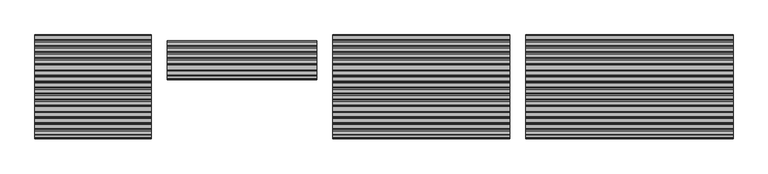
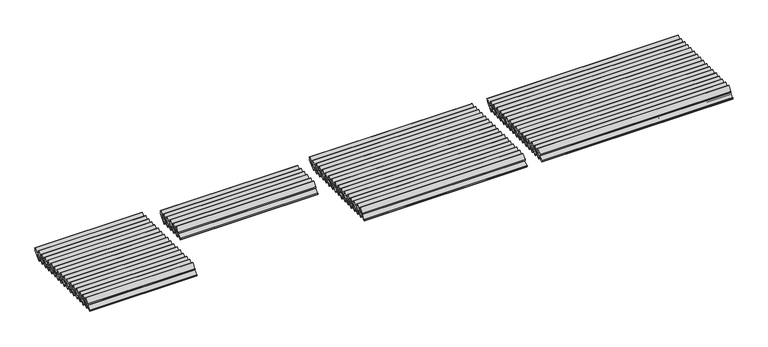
"""IFC4 building model written with IfcOpenShell, lengths in millimetres: proxy geometry, Renson_Camargue_Skye_Facade-Mounted_Patio covers : Renson_Camargue_Skye_Facade-Mounted_Patio covers."""

from ifc_helpers import new_model, si_unit, point, frame, frame_2d, origin, place, context, project, spatial, polyline, circle_curve, trimmed, segment, composite_curve, outline, extrude, source, transform, mapped, element, save


def generic_models_adc54a13(model_context):
    return source(origin(), model_context, "Body", "SweptSolid", [
        extrude(outline(composite_curve([segment(polyline([(-59.6564097, 2532.0835122), (-206.8022706, 2384.9376513), (-224.8658588, 2406.4649975), (-214.5822882, 2417.7863257), (-200.3763142, 2407.8391957), (-138.3377521, 2469.8777579), (-149.5375278, 2485.8726953)]), True, "CONTINUOUS"), segment(trimmed(circle_curve(frame_2d((-137.2502472, 2494.4763419)), 15.0), [point((-149.5375278, 2485.8726953))], [point((-148.3535191, 2504.561844))], False, "CARTESIAN"), True, "CONTINUOUS"), segment(polyline([(-148.3535191, 2504.561844), (-74.3098405, 2586.077577), (-58.094889, 2574.7237457), (-77.5051073, 2553.3547618), (-59.6564097, 2532.0835122)]), True, "CONTINUOUS")], self_intersect=False)), frame((-1079.7970473, 0.0, 0.0), z_axis=(1.0, 0.0, 0.0), x_axis=(0.0, 1.0, 0.0)), (0.0, 0.0, 1.0), 2107.0),
        extrude(outline(composite_curve([segment(polyline([(-167.1672144, 2532.0835122), (-314.3130754, 2384.9376513), (-332.3766636, 2406.4649975), (-322.093093, 2417.7863257), (-307.887119, 2407.8391957), (-245.8485568, 2469.8777579), (-257.0483326, 2485.8726953)]), True, "CONTINUOUS"), segment(trimmed(circle_curve(frame_2d((-244.761052, 2494.4763419)), 15.0), [point((-257.0483326, 2485.8726953))], [point((-255.8643239, 2504.561844))], False, "CARTESIAN"), True, "CONTINUOUS"), segment(polyline([(-255.8643239, 2504.561844), (-181.8206452, 2586.077577), (-165.6056937, 2574.7237457), (-185.0159121, 2553.3547618), (-167.1672144, 2532.0835122)]), True, "CONTINUOUS")], self_intersect=False)), frame((-1079.7970473, 0.0, 0.0), z_axis=(1.0, 0.0, 0.0), x_axis=(0.0, 1.0, 0.0)), (0.0, 0.0, 1.0), 2107.0),
        extrude(outline(composite_curve([segment(polyline([(-274.6780192, 2532.0835122), (-421.8238801, 2384.9376513), (-439.8874684, 2406.4649975), (-429.6038978, 2417.7863257), (-415.3979238, 2407.8391957), (-353.3593616, 2469.8777579), (-364.5591374, 2485.8726953)]), True, "CONTINUOUS"), segment(trimmed(circle_curve(frame_2d((-352.2718567, 2494.4763419)), 15.0), [point((-364.5591374, 2485.8726953))], [point((-363.3751287, 2504.561844))], False, "CARTESIAN"), True, "CONTINUOUS"), segment(polyline([(-363.3751287, 2504.561844), (-289.33145, 2586.077577), (-273.1164985, 2574.7237457), (-292.5267169, 2553.3547618), (-274.6780192, 2532.0835122)]), True, "CONTINUOUS")], self_intersect=False)), frame((-1079.7970473, 0.0, 0.0), z_axis=(1.0, 0.0, 0.0), x_axis=(0.0, 1.0, 0.0)), (0.0, 0.0, 1.0), 2107.0),
        extrude(outline(composite_curve([segment(polyline([(-382.188824, 2532.0835122), (-529.3346849, 2384.9376513), (-547.3982731, 2406.4649975), (-537.1147026, 2417.7863257), (-522.9087286, 2407.8391957), (-460.8701664, 2469.8777579), (-472.0699422, 2485.8726953)]), True, "CONTINUOUS"), segment(trimmed(circle_curve(frame_2d((-459.7826615, 2494.4763419)), 15.0), [point((-472.0699422, 2485.8726953))], [point((-470.8859334, 2504.561844))], False, "CARTESIAN"), True, "CONTINUOUS"), segment(polyline([(-470.8859334, 2504.561844), (-396.8422548, 2586.077577), (-380.6273033, 2574.7237457), (-400.0375217, 2553.3547618), (-382.188824, 2532.0835122)]), True, "CONTINUOUS")], self_intersect=False)), frame((-1079.7970473, 0.0, 0.0), z_axis=(1.0, 0.0, 0.0), x_axis=(0.0, 1.0, 0.0)), (0.0, 0.0, 1.0), 2107.0),
        extrude(outline(composite_curve([segment(polyline([(-489.6996288, 2532.0835122), (-636.8454897, 2384.9376513), (-654.9090779, 2406.4649975), (-644.6255074, 2417.7863257), (-630.4195334, 2407.8391957), (-568.3809712, 2469.8777579), (-579.580747, 2485.8726953)]), True, "CONTINUOUS"), segment(trimmed(circle_curve(frame_2d((-567.2934663, 2494.4763419)), 15.0), [point((-579.580747, 2485.8726953))], [point((-578.3967382, 2504.561844))], False, "CARTESIAN"), True, "CONTINUOUS"), segment(polyline([(-578.3967382, 2504.561844), (-504.3530596, 2586.077577), (-488.1381081, 2574.7237457), (-507.5483265, 2553.3547618), (-489.6996288, 2532.0835122)]), True, "CONTINUOUS")], self_intersect=False)), frame((-1079.7970473, 0.0, 0.0), z_axis=(1.0, 0.0, 0.0), x_axis=(0.0, 1.0, 0.0)), (0.0, 0.0, 1.0), 2107.0),
        extrude(outline(composite_curve([segment(polyline([(-597.2104336, 2532.0835122), (-744.3562945, 2384.9376513), (-762.4198827, 2406.4649975), (-752.1363121, 2417.7863257), (-737.9303382, 2407.8391957), (-675.891776, 2469.8777579), (-687.0915518, 2485.8726953)]), True, "CONTINUOUS"), segment(trimmed(circle_curve(frame_2d((-674.8042711, 2494.4763419)), 15.0), [point((-687.0915518, 2485.8726953))], [point((-685.907543, 2504.561844))], False, "CARTESIAN"), True, "CONTINUOUS"), segment(polyline([(-685.907543, 2504.561844), (-611.8638644, 2586.077577), (-595.6489129, 2574.7237457), (-615.0591312, 2553.3547618), (-597.2104336, 2532.0835122)]), True, "CONTINUOUS")], self_intersect=False)), frame((-1079.7970473, 0.0, 0.0), z_axis=(1.0, 0.0, 0.0), x_axis=(0.0, 1.0, 0.0)), (0.0, 0.0, 1.0), 2107.0),
        extrude(outline(composite_curve([segment(polyline([(-704.7212384, 2532.0835122), (-851.8670993, 2384.9376513), (-869.9306875, 2406.4649975), (-859.6471169, 2417.7863257), (-845.4411429, 2407.8391957), (-783.4025807, 2469.8777579), (-794.6023565, 2485.8726953)]), True, "CONTINUOUS"), segment(trimmed(circle_curve(frame_2d((-782.3150759, 2494.4763419)), 15.0), [point((-794.6023565, 2485.8726953))], [point((-793.4183478, 2504.561844))], False, "CARTESIAN"), True, "CONTINUOUS"), segment(polyline([(-793.4183478, 2504.561844), (-719.3746691, 2586.077577), (-703.1597177, 2574.7237457), (-722.569936, 2553.3547618), (-704.7212384, 2532.0835122)]), True, "CONTINUOUS")], self_intersect=False)), frame((-1079.7970473, 0.0, 0.0), z_axis=(1.0, 0.0, 0.0), x_axis=(0.0, 1.0, 0.0)), (0.0, 0.0, 1.0), 2107.0),
        extrude(outline(composite_curve([segment(polyline([(-812.2320431, 2532.0835122), (-959.3779041, 2384.9376513), (-977.4414923, 2406.4649975), (-967.1579217, 2417.7863257), (-952.9519477, 2407.8391957), (-890.9133855, 2469.8777579), (-902.1131613, 2485.8726953)]), True, "CONTINUOUS"), segment(trimmed(circle_curve(frame_2d((-889.8258807, 2494.4763419)), 15.0), [point((-902.1131613, 2485.8726953))], [point((-900.9291526, 2504.561844))], False, "CARTESIAN"), True, "CONTINUOUS"), segment(polyline([(-900.9291526, 2504.561844), (-826.8854739, 2586.077577), (-810.6705224, 2574.7237457), (-830.0807408, 2553.3547618), (-812.2320431, 2532.0835122)]), True, "CONTINUOUS")], self_intersect=False)), frame((-1079.7970473, 0.0, 0.0), z_axis=(1.0, 0.0, 0.0), x_axis=(0.0, 1.0, 0.0)), (0.0, 0.0, 1.0), 2107.0),
        extrude(outline(composite_curve([segment(polyline([(-919.7428479, 2532.0835122), (-1066.8887088, 2384.9376513), (-1084.9522971, 2406.4649975), (-1074.6687265, 2417.7863257), (-1060.4627525, 2407.8391957), (-998.4241903, 2469.8777579), (-1009.6239661, 2485.8726953)]), True, "CONTINUOUS"), segment(trimmed(circle_curve(frame_2d((-997.3366854, 2494.4763419)), 15.0), [point((-1009.6239661, 2485.8726953))], [point((-1008.4399574, 2504.561844))], False, "CARTESIAN"), True, "CONTINUOUS"), segment(polyline([(-1008.4399574, 2504.561844), (-934.3962787, 2586.077577), (-918.1813272, 2574.7237457), (-937.5915456, 2553.3547618), (-919.7428479, 2532.0835122)]), True, "CONTINUOUS")], self_intersect=False)), frame((-1079.7970473, 0.0, 0.0), z_axis=(1.0, 0.0, 0.0), x_axis=(0.0, 1.0, 0.0)), (0.0, 0.0, 1.0), 2107.0),
        extrude(outline(composite_curve([segment(polyline([(-1027.2536527, 2532.0835122), (-1174.3995136, 2384.9376513), (-1192.4631018, 2406.4649975), (-1182.1795313, 2417.7863257), (-1167.9735573, 2407.8391957), (-1105.9349951, 2469.8777579), (-1117.1347709, 2485.8726953)]), True, "CONTINUOUS"), segment(trimmed(circle_curve(frame_2d((-1104.8474902, 2494.4763419)), 15.0), [point((-1117.1347709, 2485.8726953))], [point((-1115.9507621, 2504.561844))], False, "CARTESIAN"), True, "CONTINUOUS"), segment(polyline([(-1115.9507621, 2504.561844), (-1041.9070835, 2586.077577), (-1025.692132, 2574.7237457), (-1045.1023504, 2553.3547618), (-1027.2536527, 2532.0835122)]), True, "CONTINUOUS")], self_intersect=False)), frame((-1079.7970473, 0.0, 0.0), z_axis=(1.0, 0.0, 0.0), x_axis=(0.0, 1.0, 0.0)), (0.0, 0.0, 1.0), 2107.0),
        extrude(outline(composite_curve([segment(polyline([(-1134.7644575, 2532.0835122), (-1281.9103184, 2384.9376513), (-1299.9739066, 2406.4649975), (-1289.6903361, 2417.7863257), (-1275.4843621, 2407.8391957), (-1213.4457999, 2469.8777579), (-1224.6455757, 2485.8726953)]), True, "CONTINUOUS"), segment(trimmed(circle_curve(frame_2d((-1212.358295, 2494.4763419)), 15.0), [point((-1224.6455757, 2485.8726953))], [point((-1223.4615669, 2504.561844))], False, "CARTESIAN"), True, "CONTINUOUS"), segment(polyline([(-1223.4615669, 2504.561844), (-1149.4178883, 2586.077577), (-1133.2029368, 2574.7237457), (-1152.6131551, 2553.3547618), (-1134.7644575, 2532.0835122)]), True, "CONTINUOUS")], self_intersect=False)), frame((-1079.7970473, 0.0, 0.0), z_axis=(1.0, 0.0, 0.0), x_axis=(0.0, 1.0, 0.0)), (0.0, 0.0, 1.0), 2107.0),
        extrude(outline(composite_curve([segment(polyline([(-1242.2752623, 2532.0835122), (-1389.4211232, 2384.9376513), (-1407.4847114, 2406.4649975), (-1397.2011408, 2417.7863257), (-1382.9951668, 2407.8391957), (-1320.9566047, 2469.8777579), (-1332.1563804, 2485.8726953)]), True, "CONTINUOUS"), segment(trimmed(circle_curve(frame_2d((-1319.8690998, 2494.4763419)), 15.0), [point((-1332.1563804, 2485.8726953))], [point((-1330.9723717, 2504.561844))], False, "CARTESIAN"), True, "CONTINUOUS"), segment(polyline([(-1330.9723717, 2504.561844), (-1256.9286931, 2586.077577), (-1240.7137416, 2574.7237457), (-1260.1239599, 2553.3547618), (-1242.2752623, 2532.0835122)]), True, "CONTINUOUS")], self_intersect=False)), frame((-1079.7970473, 0.0, 0.0), z_axis=(1.0, 0.0, 0.0), x_axis=(0.0, 1.0, 0.0)), (0.0, 0.0, 1.0), 2107.0),
        extrude(outline(composite_curve([segment(polyline([(-1349.786067, 2532.0835122), (-1496.931928, 2384.9376513), (-1514.9955162, 2406.4649975), (-1504.7119456, 2417.7863257), (-1490.5059716, 2407.8391957), (-1428.4674094, 2469.8777579), (-1439.6671852, 2485.8726953)]), True, "CONTINUOUS"), segment(trimmed(circle_curve(frame_2d((-1427.3799046, 2494.4763419)), 15.0), [point((-1439.6671852, 2485.8726953))], [point((-1438.4831765, 2504.561844))], False, "CARTESIAN"), True, "CONTINUOUS"), segment(polyline([(-1438.4831765, 2504.561844), (-1364.4394978, 2586.077577), (-1348.2245463, 2574.7237457), (-1367.6347647, 2553.3547618), (-1349.786067, 2532.0835122)]), True, "CONTINUOUS")], self_intersect=False)), frame((-1079.7970473, 0.0, 0.0), z_axis=(1.0, 0.0, 0.0), x_axis=(0.0, 1.0, 0.0)), (0.0, 0.0, 1.0), 2107.0),
        extrude(outline(composite_curve([segment(polyline([(-1457.2968718, 2532.0835122), (-1604.4427327, 2384.9376513), (-1622.506321, 2406.4649975), (-1612.2227504, 2417.7863257), (-1598.0167764, 2407.8391957), (-1535.9782142, 2469.8777579), (-1547.17799, 2485.8726953)]), True, "CONTINUOUS"), segment(trimmed(circle_curve(frame_2d((-1534.8907093, 2494.4763419)), 15.0), [point((-1547.17799, 2485.8726953))], [point((-1545.9939813, 2504.561844))], False, "CARTESIAN"), True, "CONTINUOUS"), segment(polyline([(-1545.9939813, 2504.561844), (-1471.9503026, 2586.077577), (-1455.7353511, 2574.7237457), (-1475.1455695, 2553.3547618), (-1457.2968718, 2532.0835122)]), True, "CONTINUOUS")], self_intersect=False)), frame((-1079.7970473, 0.0, 0.0), z_axis=(1.0, 0.0, 0.0), x_axis=(0.0, 1.0, 0.0)), (0.0, 0.0, 1.0), 2107.0),
        extrude(outline(composite_curve([segment(polyline([(-1564.8076766, 2532.0835122), (-1711.9535375, 2384.9376513), (-1730.0171257, 2406.4649975), (-1719.7335552, 2417.7863257), (-1705.5275812, 2407.8391957), (-1643.489019, 2469.8777579), (-1654.6887948, 2485.8726953)]), True, "CONTINUOUS"), segment(trimmed(circle_curve(frame_2d((-1642.4015141, 2494.4763419)), 15.0), [point((-1654.6887948, 2485.8726953))], [point((-1653.504786, 2504.561844))], False, "CARTESIAN"), True, "CONTINUOUS"), segment(polyline([(-1653.504786, 2504.561844), (-1579.4611074, 2586.077577), (-1563.2461559, 2574.7237457), (-1582.6563743, 2553.3547618), (-1564.8076766, 2532.0835122)]), True, "CONTINUOUS")], self_intersect=False)), frame((-1079.7970473, 0.0, 0.0), z_axis=(1.0, 0.0, 0.0), x_axis=(0.0, 1.0, 0.0)), (0.0, 0.0, 1.0), 2107.0),
        extrude(outline(composite_curve([segment(polyline([(47.8543951, 2532.0835122), (-99.2914658, 2384.9376513), (-117.355054, 2406.4649975), (-107.0714835, 2417.7863257), (-92.8655095, 2407.8391957), (-30.8269473, 2469.8777579), (-42.0267231, 2485.8726953)]), True, "CONTINUOUS"), segment(trimmed(circle_curve(frame_2d((-29.7394424, 2494.4763419)), 15.0), [point((-42.0267231, 2485.8726953))], [point((-40.8427143, 2504.561844))], False, "CARTESIAN"), True, "CONTINUOUS"), segment(polyline([(-40.8427143, 2504.561844), (33.2009643, 2586.077577), (49.4159158, 2574.7237457), (30.0056975, 2553.3547618), (47.8543951, 2532.0835122)]), True, "CONTINUOUS")], self_intersect=False)), frame((-1079.7970473, 0.0, 0.0), z_axis=(1.0, 0.0, 0.0), x_axis=(0.0, 1.0, 0.0)), (0.0, 0.0, 1.0), 2107.0),
        extrude(outline(composite_curve([segment(polyline([(-1672.3184814, 2532.0835122), (-1819.4643423, 2384.9376513), (-1837.5279305, 2406.4649975), (-1827.24436, 2417.7863257), (-1813.038386, 2407.8391957), (-1750.9998238, 2469.8777579), (-1762.1995996, 2485.8726953)]), True, "CONTINUOUS"), segment(trimmed(circle_curve(frame_2d((-1749.9123189, 2494.4763419)), 15.0), [point((-1762.1995996, 2485.8726953))], [point((-1761.0155908, 2504.561844))], False, "CARTESIAN"), True, "CONTINUOUS"), segment(polyline([(-1761.0155908, 2504.561844), (-1686.9719122, 2586.077577), (-1670.7569607, 2574.7237457), (-1690.1671791, 2553.3547618), (-1672.3184814, 2532.0835122)]), True, "CONTINUOUS")], self_intersect=False)), frame((-1079.7970473, 0.0, 0.0), z_axis=(1.0, 0.0, 0.0), x_axis=(0.0, 1.0, 0.0)), (0.0, 0.0, 1.0), 2107.0),
        extrude(outline(composite_curve([segment(polyline([(-59.6564097, 2532.0835122), (-206.8022706, 2384.9376513), (-224.8658588, 2406.4649975), (-214.5822882, 2417.7863257), (-200.3763142, 2407.8391957), (-138.3377521, 2469.8777579), (-149.5375278, 2485.8726953)]), True, "CONTINUOUS"), segment(trimmed(circle_curve(frame_2d((-137.2502472, 2494.4763419)), 15.0), [point((-149.5375278, 2485.8726953))], [point((-148.3535191, 2504.561844))], False, "CARTESIAN"), True, "CONTINUOUS"), segment(polyline([(-148.3535191, 2504.561844), (-74.3098405, 2586.077577), (-58.094889, 2574.7237457), (-77.5051073, 2553.3547618), (-59.6564097, 2532.0835122)]), True, "CONTINUOUS")], self_intersect=False)), frame((7823.0, 0.0, 0.0), z_axis=(1.0, 0.0, 0.0), x_axis=(0.0, 1.0, 0.0)), (0.0, 0.0, 1.0), 3757.0),
        extrude(outline(composite_curve([segment(polyline([(-167.1672144, 2532.0835122), (-314.3130754, 2384.9376513), (-332.3766636, 2406.4649975), (-322.093093, 2417.7863257), (-307.887119, 2407.8391957), (-245.8485568, 2469.8777579), (-257.0483326, 2485.8726953)]), True, "CONTINUOUS"), segment(trimmed(circle_curve(frame_2d((-244.761052, 2494.4763419)), 15.0), [point((-257.0483326, 2485.8726953))], [point((-255.8643239, 2504.561844))], False, "CARTESIAN"), True, "CONTINUOUS"), segment(polyline([(-255.8643239, 2504.561844), (-181.8206452, 2586.077577), (-165.6056937, 2574.7237457), (-185.0159121, 2553.3547618), (-167.1672144, 2532.0835122)]), True, "CONTINUOUS")], self_intersect=False)), frame((7823.0, 0.0, 0.0), z_axis=(1.0, 0.0, 0.0), x_axis=(0.0, 1.0, 0.0)), (0.0, 0.0, 1.0), 3757.0),
        extrude(outline(composite_curve([segment(polyline([(-274.6780192, 2532.0835122), (-421.8238801, 2384.9376513), (-439.8874684, 2406.4649975), (-429.6038978, 2417.7863257), (-415.3979238, 2407.8391957), (-353.3593616, 2469.8777579), (-364.5591374, 2485.8726953)]), True, "CONTINUOUS"), segment(trimmed(circle_curve(frame_2d((-352.2718567, 2494.4763419)), 15.0), [point((-364.5591374, 2485.8726953))], [point((-363.3751287, 2504.561844))], False, "CARTESIAN"), True, "CONTINUOUS"), segment(polyline([(-363.3751287, 2504.561844), (-289.33145, 2586.077577), (-273.1164985, 2574.7237457), (-292.5267169, 2553.3547618), (-274.6780192, 2532.0835122)]), True, "CONTINUOUS")], self_intersect=False)), frame((7823.0, 0.0, 0.0), z_axis=(1.0, 0.0, 0.0), x_axis=(0.0, 1.0, 0.0)), (0.0, 0.0, 1.0), 3757.0),
        extrude(outline(composite_curve([segment(polyline([(-382.188824, 2532.0835122), (-529.3346849, 2384.9376513), (-547.3982731, 2406.4649975), (-537.1147026, 2417.7863257), (-522.9087286, 2407.8391957), (-460.8701664, 2469.8777579), (-472.0699422, 2485.8726953)]), True, "CONTINUOUS"), segment(trimmed(circle_curve(frame_2d((-459.7826615, 2494.4763419)), 15.0), [point((-472.0699422, 2485.8726953))], [point((-470.8859334, 2504.561844))], False, "CARTESIAN"), True, "CONTINUOUS"), segment(polyline([(-470.8859334, 2504.561844), (-396.8422548, 2586.077577), (-380.6273033, 2574.7237457), (-400.0375217, 2553.3547618), (-382.188824, 2532.0835122)]), True, "CONTINUOUS")], self_intersect=False)), frame((7823.0, 0.0, 0.0), z_axis=(1.0, 0.0, 0.0), x_axis=(0.0, 1.0, 0.0)), (0.0, 0.0, 1.0), 3757.0),
        extrude(outline(composite_curve([segment(polyline([(-489.6996288, 2532.0835122), (-636.8454897, 2384.9376513), (-654.9090779, 2406.4649975), (-644.6255074, 2417.7863257), (-630.4195334, 2407.8391957), (-568.3809712, 2469.8777579), (-579.580747, 2485.8726953)]), True, "CONTINUOUS"), segment(trimmed(circle_curve(frame_2d((-567.2934663, 2494.4763419)), 15.0), [point((-579.580747, 2485.8726953))], [point((-578.3967382, 2504.561844))], False, "CARTESIAN"), True, "CONTINUOUS"), segment(polyline([(-578.3967382, 2504.561844), (-504.3530596, 2586.077577), (-488.1381081, 2574.7237457), (-507.5483265, 2553.3547618), (-489.6996288, 2532.0835122)]), True, "CONTINUOUS")], self_intersect=False)), frame((7823.0, 0.0, 0.0), z_axis=(1.0, 0.0, 0.0), x_axis=(0.0, 1.0, 0.0)), (0.0, 0.0, 1.0), 3757.0),
        extrude(outline(composite_curve([segment(polyline([(-597.2104336, 2532.0835122), (-744.3562945, 2384.9376513), (-762.4198827, 2406.4649975), (-752.1363121, 2417.7863257), (-737.9303382, 2407.8391957), (-675.891776, 2469.8777579), (-687.0915518, 2485.8726953)]), True, "CONTINUOUS"), segment(trimmed(circle_curve(frame_2d((-674.8042711, 2494.4763419)), 15.0), [point((-687.0915518, 2485.8726953))], [point((-685.907543, 2504.561844))], False, "CARTESIAN"), True, "CONTINUOUS"), segment(polyline([(-685.907543, 2504.561844), (-611.8638644, 2586.077577), (-595.6489129, 2574.7237457), (-615.0591312, 2553.3547618), (-597.2104336, 2532.0835122)]), True, "CONTINUOUS")], self_intersect=False)), frame((7823.0, 0.0, 0.0), z_axis=(1.0, 0.0, 0.0), x_axis=(0.0, 1.0, 0.0)), (0.0, 0.0, 1.0), 3757.0),
        extrude(outline(composite_curve([segment(polyline([(-704.7212384, 2532.0835122), (-851.8670993, 2384.9376513), (-869.9306875, 2406.4649975), (-859.6471169, 2417.7863257), (-845.4411429, 2407.8391957), (-783.4025807, 2469.8777579), (-794.6023565, 2485.8726953)]), True, "CONTINUOUS"), segment(trimmed(circle_curve(frame_2d((-782.3150759, 2494.4763419)), 15.0), [point((-794.6023565, 2485.8726953))], [point((-793.4183478, 2504.561844))], False, "CARTESIAN"), True, "CONTINUOUS"), segment(polyline([(-793.4183478, 2504.561844), (-719.3746691, 2586.077577), (-703.1597177, 2574.7237457), (-722.569936, 2553.3547618), (-704.7212384, 2532.0835122)]), True, "CONTINUOUS")], self_intersect=False)), frame((7823.0, 0.0, 0.0), z_axis=(1.0, 0.0, 0.0), x_axis=(0.0, 1.0, 0.0)), (0.0, 0.0, 1.0), 3757.0),
        extrude(outline(composite_curve([segment(polyline([(-812.2320431, 2532.0835122), (-959.3779041, 2384.9376513), (-977.4414923, 2406.4649975), (-967.1579217, 2417.7863257), (-952.9519477, 2407.8391957), (-890.9133855, 2469.8777579), (-902.1131613, 2485.8726953)]), True, "CONTINUOUS"), segment(trimmed(circle_curve(frame_2d((-889.8258807, 2494.4763419)), 15.0), [point((-902.1131613, 2485.8726953))], [point((-900.9291526, 2504.561844))], False, "CARTESIAN"), True, "CONTINUOUS"), segment(polyline([(-900.9291526, 2504.561844), (-826.8854739, 2586.077577), (-810.6705224, 2574.7237457), (-830.0807408, 2553.3547618), (-812.2320431, 2532.0835122)]), True, "CONTINUOUS")], self_intersect=False)), frame((7823.0, 0.0, 0.0), z_axis=(1.0, 0.0, 0.0), x_axis=(0.0, 1.0, 0.0)), (0.0, 0.0, 1.0), 3757.0),
        extrude(outline(composite_curve([segment(polyline([(-919.7428479, 2532.0835122), (-1066.8887088, 2384.9376513), (-1084.9522971, 2406.4649975), (-1074.6687265, 2417.7863257), (-1060.4627525, 2407.8391957), (-998.4241903, 2469.8777579), (-1009.6239661, 2485.8726953)]), True, "CONTINUOUS"), segment(trimmed(circle_curve(frame_2d((-997.3366854, 2494.4763419)), 15.0), [point((-1009.6239661, 2485.8726953))], [point((-1008.4399574, 2504.561844))], False, "CARTESIAN"), True, "CONTINUOUS"), segment(polyline([(-1008.4399574, 2504.561844), (-934.3962787, 2586.077577), (-918.1813272, 2574.7237457), (-937.5915456, 2553.3547618), (-919.7428479, 2532.0835122)]), True, "CONTINUOUS")], self_intersect=False)), frame((7823.0, 0.0, 0.0), z_axis=(1.0, 0.0, 0.0), x_axis=(0.0, 1.0, 0.0)), (0.0, 0.0, 1.0), 3757.0),
        extrude(outline(composite_curve([segment(polyline([(-1027.2536527, 2532.0835122), (-1174.3995136, 2384.9376513), (-1192.4631018, 2406.4649975), (-1182.1795313, 2417.7863257), (-1167.9735573, 2407.8391957), (-1105.9349951, 2469.8777579), (-1117.1347709, 2485.8726953)]), True, "CONTINUOUS"), segment(trimmed(circle_curve(frame_2d((-1104.8474902, 2494.4763419)), 15.0), [point((-1117.1347709, 2485.8726953))], [point((-1115.9507621, 2504.561844))], False, "CARTESIAN"), True, "CONTINUOUS"), segment(polyline([(-1115.9507621, 2504.561844), (-1041.9070835, 2586.077577), (-1025.692132, 2574.7237457), (-1045.1023504, 2553.3547618), (-1027.2536527, 2532.0835122)]), True, "CONTINUOUS")], self_intersect=False)), frame((7823.0, 0.0, 0.0), z_axis=(1.0, 0.0, 0.0), x_axis=(0.0, 1.0, 0.0)), (0.0, 0.0, 1.0), 3757.0),
        extrude(outline(composite_curve([segment(polyline([(-1134.7644575, 2532.0835122), (-1281.9103184, 2384.9376513), (-1299.9739066, 2406.4649975), (-1289.6903361, 2417.7863257), (-1275.4843621, 2407.8391957), (-1213.4457999, 2469.8777579), (-1224.6455757, 2485.8726953)]), True, "CONTINUOUS"), segment(trimmed(circle_curve(frame_2d((-1212.358295, 2494.4763419)), 15.0), [point((-1224.6455757, 2485.8726953))], [point((-1223.4615669, 2504.561844))], False, "CARTESIAN"), True, "CONTINUOUS"), segment(polyline([(-1223.4615669, 2504.561844), (-1149.4178883, 2586.077577), (-1133.2029368, 2574.7237457), (-1152.6131551, 2553.3547618), (-1134.7644575, 2532.0835122)]), True, "CONTINUOUS")], self_intersect=False)), frame((7823.0, 0.0, 0.0), z_axis=(1.0, 0.0, 0.0), x_axis=(0.0, 1.0, 0.0)), (0.0, 0.0, 1.0), 3757.0),
        extrude(outline(composite_curve([segment(polyline([(-1242.2752623, 2532.0835122), (-1389.4211232, 2384.9376513), (-1407.4847114, 2406.4649975), (-1397.2011408, 2417.7863257), (-1382.9951668, 2407.8391957), (-1320.9566047, 2469.8777579), (-1332.1563804, 2485.8726953)]), True, "CONTINUOUS"), segment(trimmed(circle_curve(frame_2d((-1319.8690998, 2494.4763419)), 15.0), [point((-1332.1563804, 2485.8726953))], [point((-1330.9723717, 2504.561844))], False, "CARTESIAN"), True, "CONTINUOUS"), segment(polyline([(-1330.9723717, 2504.561844), (-1256.9286931, 2586.077577), (-1240.7137416, 2574.7237457), (-1260.1239599, 2553.3547618), (-1242.2752623, 2532.0835122)]), True, "CONTINUOUS")], self_intersect=False)), frame((7823.0, 0.0, 0.0), z_axis=(1.0, 0.0, 0.0), x_axis=(0.0, 1.0, 0.0)), (0.0, 0.0, 1.0), 3757.0),
        extrude(outline(composite_curve([segment(polyline([(-1349.786067, 2532.0835122), (-1496.931928, 2384.9376513), (-1514.9955162, 2406.4649975), (-1504.7119456, 2417.7863257), (-1490.5059716, 2407.8391957), (-1428.4674094, 2469.8777579), (-1439.6671852, 2485.8726953)]), True, "CONTINUOUS"), segment(trimmed(circle_curve(frame_2d((-1427.3799046, 2494.4763419)), 15.0), [point((-1439.6671852, 2485.8726953))], [point((-1438.4831765, 2504.561844))], False, "CARTESIAN"), True, "CONTINUOUS"), segment(polyline([(-1438.4831765, 2504.561844), (-1364.4394978, 2586.077577), (-1348.2245463, 2574.7237457), (-1367.6347647, 2553.3547618), (-1349.786067, 2532.0835122)]), True, "CONTINUOUS")], self_intersect=False)), frame((7823.0, 0.0, 0.0), z_axis=(1.0, 0.0, 0.0), x_axis=(0.0, 1.0, 0.0)), (0.0, 0.0, 1.0), 3757.0),
        extrude(outline(composite_curve([segment(polyline([(-1457.2968718, 2532.0835122), (-1604.4427327, 2384.9376513), (-1622.506321, 2406.4649975), (-1612.2227504, 2417.7863257), (-1598.0167764, 2407.8391957), (-1535.9782142, 2469.8777579), (-1547.17799, 2485.8726953)]), True, "CONTINUOUS"), segment(trimmed(circle_curve(frame_2d((-1534.8907093, 2494.4763419)), 15.0), [point((-1547.17799, 2485.8726953))], [point((-1545.9939813, 2504.561844))], False, "CARTESIAN"), True, "CONTINUOUS"), segment(polyline([(-1545.9939813, 2504.561844), (-1471.9503026, 2586.077577), (-1455.7353511, 2574.7237457), (-1475.1455695, 2553.3547618), (-1457.2968718, 2532.0835122)]), True, "CONTINUOUS")], self_intersect=False)), frame((7823.0, 0.0, 0.0), z_axis=(1.0, 0.0, 0.0), x_axis=(0.0, 1.0, 0.0)), (0.0, 0.0, 1.0), 3757.0),
        extrude(outline(composite_curve([segment(polyline([(-1564.8076766, 2532.0835122), (-1711.9535375, 2384.9376513), (-1730.0171257, 2406.4649975), (-1719.7335552, 2417.7863257), (-1705.5275812, 2407.8391957), (-1643.489019, 2469.8777579), (-1654.6887948, 2485.8726953)]), True, "CONTINUOUS"), segment(trimmed(circle_curve(frame_2d((-1642.4015141, 2494.4763419)), 15.0), [point((-1654.6887948, 2485.8726953))], [point((-1653.504786, 2504.561844))], False, "CARTESIAN"), True, "CONTINUOUS"), segment(polyline([(-1653.504786, 2504.561844), (-1579.4611074, 2586.077577), (-1563.2461559, 2574.7237457), (-1582.6563743, 2553.3547618), (-1564.8076766, 2532.0835122)]), True, "CONTINUOUS")], self_intersect=False)), frame((7823.0, 0.0, 0.0), z_axis=(1.0, 0.0, 0.0), x_axis=(0.0, 1.0, 0.0)), (0.0, 0.0, 1.0), 3757.0),
        extrude(outline(composite_curve([segment(polyline([(47.8543951, 2532.0835122), (-99.2914658, 2384.9376513), (-117.355054, 2406.4649975), (-107.0714835, 2417.7863257), (-92.8655095, 2407.8391957), (-30.8269473, 2469.8777579), (-42.0267231, 2485.8726953)]), True, "CONTINUOUS"), segment(trimmed(circle_curve(frame_2d((-29.7394424, 2494.4763419)), 15.0), [point((-42.0267231, 2485.8726953))], [point((-40.8427143, 2504.561844))], False, "CARTESIAN"), True, "CONTINUOUS"), segment(polyline([(-40.8427143, 2504.561844), (33.2009643, 2586.077577), (49.4159158, 2574.7237457), (30.0056975, 2553.3547618), (47.8543951, 2532.0835122)]), True, "CONTINUOUS")], self_intersect=False)), frame((7823.0, 0.0, 0.0), z_axis=(1.0, 0.0, 0.0), x_axis=(0.0, 1.0, 0.0)), (0.0, 0.0, 1.0), 3757.0),
        extrude(outline(composite_curve([segment(polyline([(-1672.3184814, 2532.0835122), (-1819.4643423, 2384.9376513), (-1837.5279305, 2406.4649975), (-1827.24436, 2417.7863257), (-1813.038386, 2407.8391957), (-1750.9998238, 2469.8777579), (-1762.1995996, 2485.8726953)]), True, "CONTINUOUS"), segment(trimmed(circle_curve(frame_2d((-1749.9123189, 2494.4763419)), 15.0), [point((-1762.1995996, 2485.8726953))], [point((-1761.0155908, 2504.561844))], False, "CARTESIAN"), True, "CONTINUOUS"), segment(polyline([(-1761.0155908, 2504.561844), (-1686.9719122, 2586.077577), (-1670.7569607, 2574.7237457), (-1690.1671791, 2553.3547618), (-1672.3184814, 2532.0835122)]), True, "CONTINUOUS")], self_intersect=False)), frame((7823.0, 0.0, 0.0), z_axis=(1.0, 0.0, 0.0), x_axis=(0.0, 1.0, 0.0)), (0.0, 0.0, 1.0), 3757.0),
        extrude(outline(composite_curve([segment(polyline([(-59.6564097, 2532.0835122), (-206.8022706, 2384.9376513), (-224.8658588, 2406.4649975), (-214.5822882, 2417.7863257), (-200.3763142, 2407.8391957), (-138.3377521, 2469.8777579), (-149.5375278, 2485.8726953)]), True, "CONTINUOUS"), segment(trimmed(circle_curve(frame_2d((-137.2502472, 2494.4763419)), 15.0), [point((-149.5375278, 2485.8726953))], [point((-148.3535191, 2504.561844))], False, "CARTESIAN"), True, "CONTINUOUS"), segment(polyline([(-148.3535191, 2504.561844), (-74.3098405, 2586.077577), (-58.094889, 2574.7237457), (-77.5051073, 2553.3547618), (-59.6564097, 2532.0835122)]), True, "CONTINUOUS")], self_intersect=False)), frame((4323.0, 0.0, 0.0), z_axis=(1.0, 0.0, 0.0), x_axis=(0.0, 1.0, 0.0)), (0.0, 0.0, 1.0), 3205.0),
        extrude(outline(composite_curve([segment(polyline([(-167.1672144, 2532.0835122), (-314.3130754, 2384.9376513), (-332.3766636, 2406.4649975), (-322.093093, 2417.7863257), (-307.887119, 2407.8391957), (-245.8485568, 2469.8777579), (-257.0483326, 2485.8726953)]), True, "CONTINUOUS"), segment(trimmed(circle_curve(frame_2d((-244.761052, 2494.4763419)), 15.0), [point((-257.0483326, 2485.8726953))], [point((-255.8643239, 2504.561844))], False, "CARTESIAN"), True, "CONTINUOUS"), segment(polyline([(-255.8643239, 2504.561844), (-181.8206452, 2586.077577), (-165.6056937, 2574.7237457), (-185.0159121, 2553.3547618), (-167.1672144, 2532.0835122)]), True, "CONTINUOUS")], self_intersect=False)), frame((4323.0, 0.0, 0.0), z_axis=(1.0, 0.0, 0.0), x_axis=(0.0, 1.0, 0.0)), (0.0, 0.0, 1.0), 3205.0),
        extrude(outline(composite_curve([segment(polyline([(-274.6780192, 2532.0835122), (-421.8238801, 2384.9376513), (-439.8874684, 2406.4649975), (-429.6038978, 2417.7863257), (-415.3979238, 2407.8391957), (-353.3593616, 2469.8777579), (-364.5591374, 2485.8726953)]), True, "CONTINUOUS"), segment(trimmed(circle_curve(frame_2d((-352.2718567, 2494.4763419)), 15.0), [point((-364.5591374, 2485.8726953))], [point((-363.3751287, 2504.561844))], False, "CARTESIAN"), True, "CONTINUOUS"), segment(polyline([(-363.3751287, 2504.561844), (-289.33145, 2586.077577), (-273.1164985, 2574.7237457), (-292.5267169, 2553.3547618), (-274.6780192, 2532.0835122)]), True, "CONTINUOUS")], self_intersect=False)), frame((4323.0, 0.0, 0.0), z_axis=(1.0, 0.0, 0.0), x_axis=(0.0, 1.0, 0.0)), (0.0, 0.0, 1.0), 3205.0),
        extrude(outline(composite_curve([segment(polyline([(-382.188824, 2532.0835122), (-529.3346849, 2384.9376513), (-547.3982731, 2406.4649975), (-537.1147026, 2417.7863257), (-522.9087286, 2407.8391957), (-460.8701664, 2469.8777579), (-472.0699422, 2485.8726953)]), True, "CONTINUOUS"), segment(trimmed(circle_curve(frame_2d((-459.7826615, 2494.4763419)), 15.0), [point((-472.0699422, 2485.8726953))], [point((-470.8859334, 2504.561844))], False, "CARTESIAN"), True, "CONTINUOUS"), segment(polyline([(-470.8859334, 2504.561844), (-396.8422548, 2586.077577), (-380.6273033, 2574.7237457), (-400.0375217, 2553.3547618), (-382.188824, 2532.0835122)]), True, "CONTINUOUS")], self_intersect=False)), frame((4323.0, 0.0, 0.0), z_axis=(1.0, 0.0, 0.0), x_axis=(0.0, 1.0, 0.0)), (0.0, 0.0, 1.0), 3205.0),
        extrude(outline(composite_curve([segment(polyline([(-489.6996288, 2532.0835122), (-636.8454897, 2384.9376513), (-654.9090779, 2406.4649975), (-644.6255074, 2417.7863257), (-630.4195334, 2407.8391957), (-568.3809712, 2469.8777579), (-579.580747, 2485.8726953)]), True, "CONTINUOUS"), segment(trimmed(circle_curve(frame_2d((-567.2934663, 2494.4763419)), 15.0), [point((-579.580747, 2485.8726953))], [point((-578.3967382, 2504.561844))], False, "CARTESIAN"), True, "CONTINUOUS"), segment(polyline([(-578.3967382, 2504.561844), (-504.3530596, 2586.077577), (-488.1381081, 2574.7237457), (-507.5483265, 2553.3547618), (-489.6996288, 2532.0835122)]), True, "CONTINUOUS")], self_intersect=False)), frame((4323.0, 0.0, 0.0), z_axis=(1.0, 0.0, 0.0), x_axis=(0.0, 1.0, 0.0)), (0.0, 0.0, 1.0), 3205.0),
        extrude(outline(composite_curve([segment(polyline([(-597.2104336, 2532.0835122), (-744.3562945, 2384.9376513), (-762.4198827, 2406.4649975), (-752.1363121, 2417.7863257), (-737.9303382, 2407.8391957), (-675.891776, 2469.8777579), (-687.0915518, 2485.8726953)]), True, "CONTINUOUS"), segment(trimmed(circle_curve(frame_2d((-674.8042711, 2494.4763419)), 15.0), [point((-687.0915518, 2485.8726953))], [point((-685.907543, 2504.561844))], False, "CARTESIAN"), True, "CONTINUOUS"), segment(polyline([(-685.907543, 2504.561844), (-611.8638644, 2586.077577), (-595.6489129, 2574.7237457), (-615.0591312, 2553.3547618), (-597.2104336, 2532.0835122)]), True, "CONTINUOUS")], self_intersect=False)), frame((4323.0, 0.0, 0.0), z_axis=(1.0, 0.0, 0.0), x_axis=(0.0, 1.0, 0.0)), (0.0, 0.0, 1.0), 3205.0),
        extrude(outline(composite_curve([segment(polyline([(-704.7212384, 2532.0835122), (-851.8670993, 2384.9376513), (-869.9306875, 2406.4649975), (-859.6471169, 2417.7863257), (-845.4411429, 2407.8391957), (-783.4025807, 2469.8777579), (-794.6023565, 2485.8726953)]), True, "CONTINUOUS"), segment(trimmed(circle_curve(frame_2d((-782.3150759, 2494.4763419)), 15.0), [point((-794.6023565, 2485.8726953))], [point((-793.4183478, 2504.561844))], False, "CARTESIAN"), True, "CONTINUOUS"), segment(polyline([(-793.4183478, 2504.561844), (-719.3746691, 2586.077577), (-703.1597177, 2574.7237457), (-722.569936, 2553.3547618), (-704.7212384, 2532.0835122)]), True, "CONTINUOUS")], self_intersect=False)), frame((4323.0, 0.0, 0.0), z_axis=(1.0, 0.0, 0.0), x_axis=(0.0, 1.0, 0.0)), (0.0, 0.0, 1.0), 3205.0),
        extrude(outline(composite_curve([segment(polyline([(-812.2320431, 2532.0835122), (-959.3779041, 2384.9376513), (-977.4414923, 2406.4649975), (-967.1579217, 2417.7863257), (-952.9519477, 2407.8391957), (-890.9133855, 2469.8777579), (-902.1131613, 2485.8726953)]), True, "CONTINUOUS"), segment(trimmed(circle_curve(frame_2d((-889.8258807, 2494.4763419)), 15.0), [point((-902.1131613, 2485.8726953))], [point((-900.9291526, 2504.561844))], False, "CARTESIAN"), True, "CONTINUOUS"), segment(polyline([(-900.9291526, 2504.561844), (-826.8854739, 2586.077577), (-810.6705224, 2574.7237457), (-830.0807408, 2553.3547618), (-812.2320431, 2532.0835122)]), True, "CONTINUOUS")], self_intersect=False)), frame((4323.0, 0.0, 0.0), z_axis=(1.0, 0.0, 0.0), x_axis=(0.0, 1.0, 0.0)), (0.0, 0.0, 1.0), 3205.0),
        extrude(outline(composite_curve([segment(polyline([(-919.7428479, 2532.0835122), (-1066.8887088, 2384.9376513), (-1084.9522971, 2406.4649975), (-1074.6687265, 2417.7863257), (-1060.4627525, 2407.8391957), (-998.4241903, 2469.8777579), (-1009.6239661, 2485.8726953)]), True, "CONTINUOUS"), segment(trimmed(circle_curve(frame_2d((-997.3366854, 2494.4763419)), 15.0), [point((-1009.6239661, 2485.8726953))], [point((-1008.4399574, 2504.561844))], False, "CARTESIAN"), True, "CONTINUOUS"), segment(polyline([(-1008.4399574, 2504.561844), (-934.3962787, 2586.077577), (-918.1813272, 2574.7237457), (-937.5915456, 2553.3547618), (-919.7428479, 2532.0835122)]), True, "CONTINUOUS")], self_intersect=False)), frame((4323.0, 0.0, 0.0), z_axis=(1.0, 0.0, 0.0), x_axis=(0.0, 1.0, 0.0)), (0.0, 0.0, 1.0), 3205.0),
        extrude(outline(composite_curve([segment(polyline([(-1027.2536527, 2532.0835122), (-1174.3995136, 2384.9376513), (-1192.4631018, 2406.4649975), (-1182.1795313, 2417.7863257), (-1167.9735573, 2407.8391957), (-1105.9349951, 2469.8777579), (-1117.1347709, 2485.8726953)]), True, "CONTINUOUS"), segment(trimmed(circle_curve(frame_2d((-1104.8474902, 2494.4763419)), 15.0), [point((-1117.1347709, 2485.8726953))], [point((-1115.9507621, 2504.561844))], False, "CARTESIAN"), True, "CONTINUOUS"), segment(polyline([(-1115.9507621, 2504.561844), (-1041.9070835, 2586.077577), (-1025.692132, 2574.7237457), (-1045.1023504, 2553.3547618), (-1027.2536527, 2532.0835122)]), True, "CONTINUOUS")], self_intersect=False)), frame((4323.0, 0.0, 0.0), z_axis=(1.0, 0.0, 0.0), x_axis=(0.0, 1.0, 0.0)), (0.0, 0.0, 1.0), 3205.0),
        extrude(outline(composite_curve([segment(polyline([(-1134.7644575, 2532.0835122), (-1281.9103184, 2384.9376513), (-1299.9739066, 2406.4649975), (-1289.6903361, 2417.7863257), (-1275.4843621, 2407.8391957), (-1213.4457999, 2469.8777579), (-1224.6455757, 2485.8726953)]), True, "CONTINUOUS"), segment(trimmed(circle_curve(frame_2d((-1212.358295, 2494.4763419)), 15.0), [point((-1224.6455757, 2485.8726953))], [point((-1223.4615669, 2504.561844))], False, "CARTESIAN"), True, "CONTINUOUS"), segment(polyline([(-1223.4615669, 2504.561844), (-1149.4178883, 2586.077577), (-1133.2029368, 2574.7237457), (-1152.6131551, 2553.3547618), (-1134.7644575, 2532.0835122)]), True, "CONTINUOUS")], self_intersect=False)), frame((4323.0, 0.0, 0.0), z_axis=(1.0, 0.0, 0.0), x_axis=(0.0, 1.0, 0.0)), (0.0, 0.0, 1.0), 3205.0),
        extrude(outline(composite_curve([segment(polyline([(-1242.2752623, 2532.0835122), (-1389.4211232, 2384.9376513), (-1407.4847114, 2406.4649975), (-1397.2011408, 2417.7863257), (-1382.9951668, 2407.8391957), (-1320.9566047, 2469.8777579), (-1332.1563804, 2485.8726953)]), True, "CONTINUOUS"), segment(trimmed(circle_curve(frame_2d((-1319.8690998, 2494.4763419)), 15.0), [point((-1332.1563804, 2485.8726953))], [point((-1330.9723717, 2504.561844))], False, "CARTESIAN"), True, "CONTINUOUS"), segment(polyline([(-1330.9723717, 2504.561844), (-1256.9286931, 2586.077577), (-1240.7137416, 2574.7237457), (-1260.1239599, 2553.3547618), (-1242.2752623, 2532.0835122)]), True, "CONTINUOUS")], self_intersect=False)), frame((4323.0, 0.0, 0.0), z_axis=(1.0, 0.0, 0.0), x_axis=(0.0, 1.0, 0.0)), (0.0, 0.0, 1.0), 3205.0),
        extrude(outline(composite_curve([segment(polyline([(-1349.786067, 2532.0835122), (-1496.931928, 2384.9376513), (-1514.9955162, 2406.4649975), (-1504.7119456, 2417.7863257), (-1490.5059716, 2407.8391957), (-1428.4674094, 2469.8777579), (-1439.6671852, 2485.8726953)]), True, "CONTINUOUS"), segment(trimmed(circle_curve(frame_2d((-1427.3799046, 2494.4763419)), 15.0), [point((-1439.6671852, 2485.8726953))], [point((-1438.4831765, 2504.561844))], False, "CARTESIAN"), True, "CONTINUOUS"), segment(polyline([(-1438.4831765, 2504.561844), (-1364.4394978, 2586.077577), (-1348.2245463, 2574.7237457), (-1367.6347647, 2553.3547618), (-1349.786067, 2532.0835122)]), True, "CONTINUOUS")], self_intersect=False)), frame((4323.0, 0.0, 0.0), z_axis=(1.0, 0.0, 0.0), x_axis=(0.0, 1.0, 0.0)), (0.0, 0.0, 1.0), 3205.0),
        extrude(outline(composite_curve([segment(polyline([(-1457.2968718, 2532.0835122), (-1604.4427327, 2384.9376513), (-1622.506321, 2406.4649975), (-1612.2227504, 2417.7863257), (-1598.0167764, 2407.8391957), (-1535.9782142, 2469.8777579), (-1547.17799, 2485.8726953)]), True, "CONTINUOUS"), segment(trimmed(circle_curve(frame_2d((-1534.8907093, 2494.4763419)), 15.0), [point((-1547.17799, 2485.8726953))], [point((-1545.9939813, 2504.561844))], False, "CARTESIAN"), True, "CONTINUOUS"), segment(polyline([(-1545.9939813, 2504.561844), (-1471.9503026, 2586.077577), (-1455.7353511, 2574.7237457), (-1475.1455695, 2553.3547618), (-1457.2968718, 2532.0835122)]), True, "CONTINUOUS")], self_intersect=False)), frame((4323.0, 0.0, 0.0), z_axis=(1.0, 0.0, 0.0), x_axis=(0.0, 1.0, 0.0)), (0.0, 0.0, 1.0), 3205.0),
        extrude(outline(composite_curve([segment(polyline([(-1564.8076766, 2532.0835122), (-1711.9535375, 2384.9376513), (-1730.0171257, 2406.4649975), (-1719.7335552, 2417.7863257), (-1705.5275812, 2407.8391957), (-1643.489019, 2469.8777579), (-1654.6887948, 2485.8726953)]), True, "CONTINUOUS"), segment(trimmed(circle_curve(frame_2d((-1642.4015141, 2494.4763419)), 15.0), [point((-1654.6887948, 2485.8726953))], [point((-1653.504786, 2504.561844))], False, "CARTESIAN"), True, "CONTINUOUS"), segment(polyline([(-1653.504786, 2504.561844), (-1579.4611074, 2586.077577), (-1563.2461559, 2574.7237457), (-1582.6563743, 2553.3547618), (-1564.8076766, 2532.0835122)]), True, "CONTINUOUS")], self_intersect=False)), frame((4323.0, 0.0, 0.0), z_axis=(1.0, 0.0, 0.0), x_axis=(0.0, 1.0, 0.0)), (0.0, 0.0, 1.0), 3205.0),
        extrude(outline(composite_curve([segment(polyline([(47.8543951, 2532.0835122), (-99.2914658, 2384.9376513), (-117.355054, 2406.4649975), (-107.0714835, 2417.7863257), (-92.8655095, 2407.8391957), (-30.8269473, 2469.8777579), (-42.0267231, 2485.8726953)]), True, "CONTINUOUS"), segment(trimmed(circle_curve(frame_2d((-29.7394424, 2494.4763419)), 15.0), [point((-42.0267231, 2485.8726953))], [point((-40.8427143, 2504.561844))], False, "CARTESIAN"), True, "CONTINUOUS"), segment(polyline([(-40.8427143, 2504.561844), (33.2009643, 2586.077577), (49.4159158, 2574.7237457), (30.0056975, 2553.3547618), (47.8543951, 2532.0835122)]), True, "CONTINUOUS")], self_intersect=False)), frame((4323.0, 0.0, 0.0), z_axis=(1.0, 0.0, 0.0), x_axis=(0.0, 1.0, 0.0)), (0.0, 0.0, 1.0), 3205.0),
        extrude(outline(composite_curve([segment(polyline([(-1672.3184814, 2532.0835122), (-1819.4643423, 2384.9376513), (-1837.5279305, 2406.4649975), (-1827.24436, 2417.7863257), (-1813.038386, 2407.8391957), (-1750.9998238, 2469.8777579), (-1762.1995996, 2485.8726953)]), True, "CONTINUOUS"), segment(trimmed(circle_curve(frame_2d((-1749.9123189, 2494.4763419)), 15.0), [point((-1762.1995996, 2485.8726953))], [point((-1761.0155908, 2504.561844))], False, "CARTESIAN"), True, "CONTINUOUS"), segment(polyline([(-1761.0155908, 2504.561844), (-1686.9719122, 2586.077577), (-1670.7569607, 2574.7237457), (-1690.1671791, 2553.3547618), (-1672.3184814, 2532.0835122)]), True, "CONTINUOUS")], self_intersect=False)), frame((4323.0, 0.0, 0.0), z_axis=(1.0, 0.0, 0.0), x_axis=(0.0, 1.0, 0.0)), (0.0, 0.0, 1.0), 3205.0),
        extrude(outline(composite_curve([segment(polyline([(-59.6564097, 2532.0835122), (-206.8022706, 2384.9376513), (-224.8658588, 2406.4649975), (-214.5822882, 2417.7863257), (-200.3763142, 2407.8391957), (-138.3377521, 2469.8777579), (-149.5375278, 2485.8726953)]), True, "CONTINUOUS"), segment(trimmed(circle_curve(frame_2d((-137.2502472, 2494.4763419)), 15.0), [point((-149.5375278, 2485.8726953))], [point((-148.3535191, 2504.561844))], False, "CARTESIAN"), True, "CONTINUOUS"), segment(polyline([(-148.3535191, 2504.561844), (-74.3098405, 2586.077577), (-58.094889, 2574.7237457), (-77.5051073, 2553.3547618), (-59.6564097, 2532.0835122)]), True, "CONTINUOUS")], self_intersect=False)), frame((1323.0, 0.0, 0.0), z_axis=(1.0, 0.0, 0.0), x_axis=(0.0, 1.0, 0.0)), (0.0, 0.0, 1.0), 2705.0),
        extrude(outline(composite_curve([segment(polyline([(-167.1672144, 2532.0835122), (-314.3130754, 2384.9376513), (-332.3766636, 2406.4649975), (-322.093093, 2417.7863257), (-307.887119, 2407.8391957), (-245.8485568, 2469.8777579), (-257.0483326, 2485.8726953)]), True, "CONTINUOUS"), segment(trimmed(circle_curve(frame_2d((-244.761052, 2494.4763419)), 15.0), [point((-257.0483326, 2485.8726953))], [point((-255.8643239, 2504.561844))], False, "CARTESIAN"), True, "CONTINUOUS"), segment(polyline([(-255.8643239, 2504.561844), (-181.8206452, 2586.077577), (-165.6056937, 2574.7237457), (-185.0159121, 2553.3547618), (-167.1672144, 2532.0835122)]), True, "CONTINUOUS")], self_intersect=False)), frame((1323.0, 0.0, 0.0), z_axis=(1.0, 0.0, 0.0), x_axis=(0.0, 1.0, 0.0)), (0.0, 0.0, 1.0), 2705.0),
        extrude(outline(composite_curve([segment(polyline([(-274.6780192, 2532.0835122), (-421.8238801, 2384.9376513), (-439.8874684, 2406.4649975), (-429.6038978, 2417.7863257), (-415.3979238, 2407.8391957), (-353.3593616, 2469.8777579), (-364.5591374, 2485.8726953)]), True, "CONTINUOUS"), segment(trimmed(circle_curve(frame_2d((-352.2718567, 2494.4763419)), 15.0), [point((-364.5591374, 2485.8726953))], [point((-363.3751287, 2504.561844))], False, "CARTESIAN"), True, "CONTINUOUS"), segment(polyline([(-363.3751287, 2504.561844), (-289.33145, 2586.077577), (-273.1164985, 2574.7237457), (-292.5267169, 2553.3547618), (-274.6780192, 2532.0835122)]), True, "CONTINUOUS")], self_intersect=False)), frame((1323.0, 0.0, 0.0), z_axis=(1.0, 0.0, 0.0), x_axis=(0.0, 1.0, 0.0)), (0.0, 0.0, 1.0), 2705.0),
        extrude(outline(composite_curve([segment(polyline([(-382.188824, 2532.0835122), (-529.3346849, 2384.9376513), (-547.3982731, 2406.4649975), (-537.1147026, 2417.7863257), (-522.9087286, 2407.8391957), (-460.8701664, 2469.8777579), (-472.0699422, 2485.8726953)]), True, "CONTINUOUS"), segment(trimmed(circle_curve(frame_2d((-459.7826615, 2494.4763419)), 15.0), [point((-472.0699422, 2485.8726953))], [point((-470.8859334, 2504.561844))], False, "CARTESIAN"), True, "CONTINUOUS"), segment(polyline([(-470.8859334, 2504.561844), (-396.8422548, 2586.077577), (-380.6273033, 2574.7237457), (-400.0375217, 2553.3547618), (-382.188824, 2532.0835122)]), True, "CONTINUOUS")], self_intersect=False)), frame((1323.0, 0.0, 0.0), z_axis=(1.0, 0.0, 0.0), x_axis=(0.0, 1.0, 0.0)), (0.0, 0.0, 1.0), 2705.0),
        extrude(outline(composite_curve([segment(polyline([(-489.6996288, 2532.0835122), (-636.8454897, 2384.9376513), (-654.9090779, 2406.4649975), (-644.6255074, 2417.7863257), (-630.4195334, 2407.8391957), (-568.3809712, 2469.8777579), (-579.580747, 2485.8726953)]), True, "CONTINUOUS"), segment(trimmed(circle_curve(frame_2d((-567.2934663, 2494.4763419)), 15.0), [point((-579.580747, 2485.8726953))], [point((-578.3967382, 2504.561844))], False, "CARTESIAN"), True, "CONTINUOUS"), segment(polyline([(-578.3967382, 2504.561844), (-504.3530596, 2586.077577), (-488.1381081, 2574.7237457), (-507.5483265, 2553.3547618), (-489.6996288, 2532.0835122)]), True, "CONTINUOUS")], self_intersect=False)), frame((1323.0, 0.0, 0.0), z_axis=(1.0, 0.0, 0.0), x_axis=(0.0, 1.0, 0.0)), (0.0, 0.0, 1.0), 2705.0),
        extrude(outline(composite_curve([segment(polyline([(-597.2104336, 2532.0835122), (-744.3562945, 2384.9376513), (-762.4198827, 2406.4649975), (-752.1363121, 2417.7863257), (-737.9303382, 2407.8391957), (-675.891776, 2469.8777579), (-687.0915518, 2485.8726953)]), True, "CONTINUOUS"), segment(trimmed(circle_curve(frame_2d((-674.8042711, 2494.4763419)), 15.0), [point((-687.0915518, 2485.8726953))], [point((-685.907543, 2504.561844))], False, "CARTESIAN"), True, "CONTINUOUS"), segment(polyline([(-685.907543, 2504.561844), (-611.8638644, 2586.077577), (-595.6489129, 2574.7237457), (-615.0591312, 2553.3547618), (-597.2104336, 2532.0835122)]), True, "CONTINUOUS")], self_intersect=False)), frame((1323.0, 0.0, 0.0), z_axis=(1.0, 0.0, 0.0), x_axis=(0.0, 1.0, 0.0)), (0.0, 0.0, 1.0), 2705.0),
    ])


if __name__ == "__main__":
    model = new_model("IFC4")
    model_context = context("Model", 3, world=origin())
    ifc_project = project(units=[si_unit("LENGTHUNIT", "METRE", prefix="MILLI")], contexts=[model_context])
    site = spatial("IfcSite", under=ifc_project)
    building = spatial("IfcBuilding", under=site)
    placement = place(None, origin())
    generic_models_shape = generic_models_adc54a13(model_context)
    element("IfcBuildingElementProxy", 1, Name="Renson_Camargue_Skye_Facade-Mounted_Patio covers : Renson_Camargue_Skye_Facade-Mounted_Patio covers", ObjectType="Renson_Camargue_Skye_Facade-Mounted_Patio covers : Renson_Camargue_Skye_Facade-Mounted_Patio covers", at=placement, inside=building, context=model_context, shape_type="MappedRepresentation", body=[
        mapped(generic_models_shape, transform((0.0, 0.0, 0.0), x_axis=(1.0, 0.0, 0.0), y_axis=(0.0, 1.0, 0.0), z_axis=(0.0, 0.0, 1.0))),
    ])
    save(model, "model.ifc")
